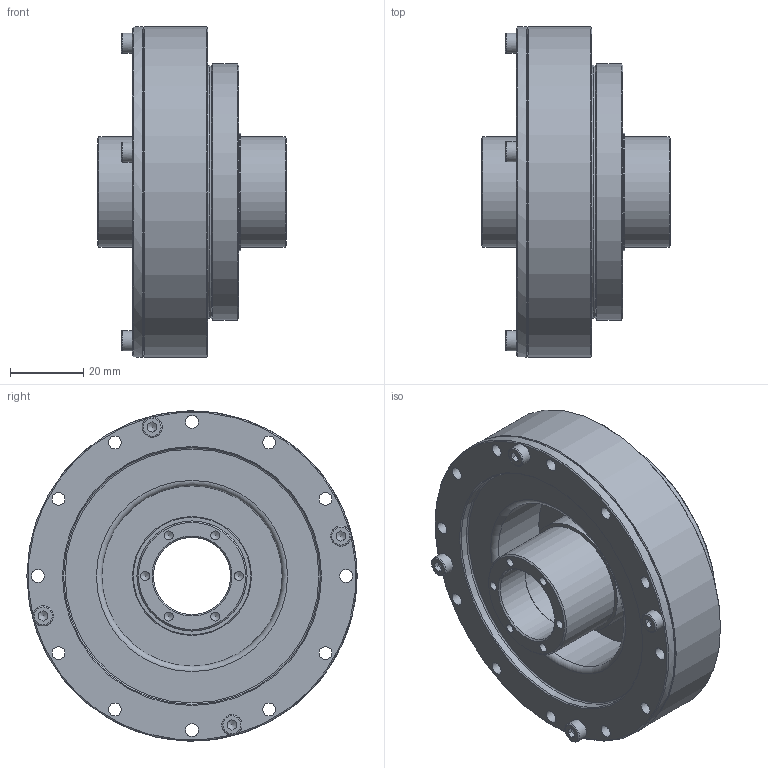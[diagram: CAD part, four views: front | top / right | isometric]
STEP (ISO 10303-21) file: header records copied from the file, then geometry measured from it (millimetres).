
FILE_DESCRIPTION(/* description */ (''),/* implementation_level */ '2;1');
FILE_NAME(/* name */ '\\Hiwin.tw\dfs\TB00F\研發課二組\\X2\6A5F5BC67D1A\X0\\97.同仁共享區 (機密級)\H11\\X2\6B236021\X0\\2023專案追蹤\2.型錄\\X2\6A21578B\X0\\官網3D檔(NEW)\DGH-PH\DGH-20-XX-PH.stp',/* time_stamp */ '2024-08-26T10:31:57+08:00',/* author */ ('hienya'),/* organization */ (''),/* preprocessor_version */ 'ST-DEVELOPER v15.2',/* originating_system */ 'Autodesk Inventor 2014',/* authorisation */ '');
FILE_SCHEMA (('AUTOMOTIVE_DESIGN { 1 0 10303 214 3 1 1 }'));
Length unit declared in the file: centimetre
Products named in the file (1): DGH-20-XX-PH
Bounding box: 51.5 x 90 x 90 mm (x, y, z)
Volume: 126451.9 mm3; surface area: 38794.4 mm2
Topology: 1 solids, 1 shells, 455 faces, 1117 edges, 702 vertices
Faces by surface type: cylinder 177, plane 142, torus 60, cone 53, sphere 23
Full cylindrical faces by diameter (mm): 2.459 x28, 3.5 x28, 5.5 x8, 6.5 x4, 21 x2, 21.5 x1, 30 x2, 32 x2, 38.15 x1, 46.635 x1, 49.07 x1, 49.12 x1, 69 x1, 70 x2, 78 x1, 90 x2
Entity records: 11615 total; most frequent: DIRECTION 2256, CARTESIAN_POINT 1940, ORIENTED_EDGE 1720, AXIS2_PLACEMENT_3D 1034, EDGE_CURVE 814, EDGE_LOOP 694, CIRCLE 578, VERTEX_POINT 574
